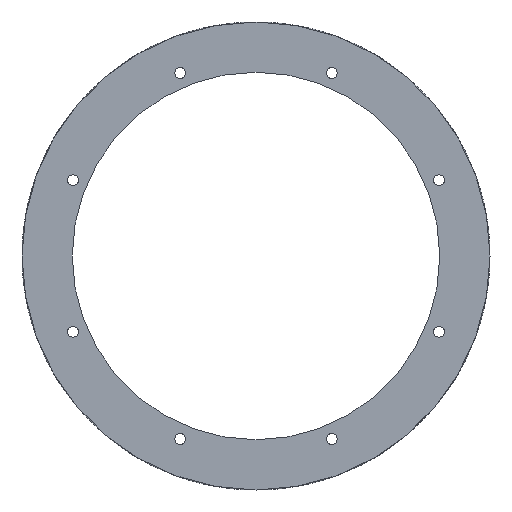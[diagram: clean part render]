
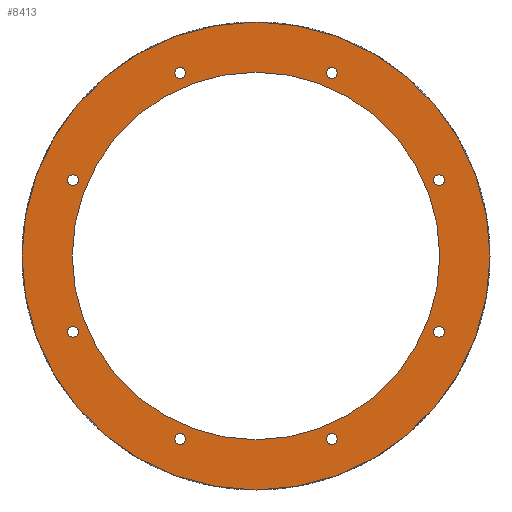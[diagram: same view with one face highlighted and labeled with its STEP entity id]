
A CAD part, front view. The second image highlights one B-rep face of the part: STEP entity #8413.
In plain terms, the highlighted planar face has unit normal (0, -1, 0).
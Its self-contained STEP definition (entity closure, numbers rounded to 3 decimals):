
#15=CARTESIAN_POINT('',(0.,0.,0.));
#16=DIRECTION('',(0.,1.,0.));
#17=DIRECTION('',(1.,0.,0.));
#18=AXIS2_PLACEMENT_3D('',#15,#16,#17);
#24=CARTESIAN_POINT('',(0.,0.,0.));
#25=DIRECTION('',(0.,1.,0.));
#26=DIRECTION('',(-1.,0.,0.));
#27=AXIS2_PLACEMENT_3D('',#24,#25,#26);
#32=CARTESIAN_POINT('',(0.,0.,0.));
#33=DIRECTION('',(0.,-1.,0.));
#34=DIRECTION('',(1.,0.,0.));
#35=AXIS2_PLACEMENT_3D('',#32,#33,#34);
#40=CARTESIAN_POINT('',(0.,0.,0.));
#41=DIRECTION('',(0.,-1.,0.));
#42=DIRECTION('',(-1.,0.,0.));
#43=AXIS2_PLACEMENT_3D('',#40,#41,#42);
#48=CARTESIAN_POINT('',(-44.808,0.,-18.56));
#49=DIRECTION('',(0.,1.,0.));
#50=DIRECTION('',(1.,0.,0.));
#51=AXIS2_PLACEMENT_3D('',#48,#49,#50);
#56=CARTESIAN_POINT('',(-44.808,0.,-18.56));
#57=DIRECTION('',(0.,1.,0.));
#58=DIRECTION('',(-1.,0.,0.));
#59=AXIS2_PLACEMENT_3D('',#56,#57,#58);
#64=CARTESIAN_POINT('',(18.56,0.,-44.808));
#65=DIRECTION('',(0.,1.,0.));
#66=DIRECTION('',(1.,0.,0.));
#67=AXIS2_PLACEMENT_3D('',#64,#65,#66);
#72=CARTESIAN_POINT('',(18.56,0.,-44.808));
#73=DIRECTION('',(0.,1.,0.));
#74=DIRECTION('',(-1.,0.,0.));
#75=AXIS2_PLACEMENT_3D('',#72,#73,#74);
#80=CARTESIAN_POINT('',(44.808,0.,18.56));
#81=DIRECTION('',(0.,1.,0.));
#82=DIRECTION('',(1.,0.,0.));
#83=AXIS2_PLACEMENT_3D('',#80,#81,#82);
#88=CARTESIAN_POINT('',(44.808,0.,18.56));
#89=DIRECTION('',(0.,1.,0.));
#90=DIRECTION('',(-1.,0.,0.));
#91=AXIS2_PLACEMENT_3D('',#88,#89,#90);
#96=CARTESIAN_POINT('',(-18.56,0.,44.808));
#97=DIRECTION('',(0.,1.,0.));
#98=DIRECTION('',(1.,0.,0.));
#99=AXIS2_PLACEMENT_3D('',#96,#97,#98);
#104=CARTESIAN_POINT('',(-18.56,0.,44.808));
#105=DIRECTION('',(0.,1.,0.));
#106=DIRECTION('',(-1.,0.,0.));
#107=AXIS2_PLACEMENT_3D('',#104,#105,#106);
#112=CARTESIAN_POINT('',(-18.56,0.,-44.808));
#113=DIRECTION('',(0.,1.,0.));
#114=DIRECTION('',(1.,0.,0.));
#115=AXIS2_PLACEMENT_3D('',#112,#113,#114);
#120=CARTESIAN_POINT('',(-18.56,0.,-44.808));
#121=DIRECTION('',(0.,1.,0.));
#122=DIRECTION('',(-1.,0.,0.));
#123=AXIS2_PLACEMENT_3D('',#120,#121,#122);
#128=CARTESIAN_POINT('',(44.808,0.,-18.56));
#129=DIRECTION('',(0.,1.,0.));
#130=DIRECTION('',(1.,0.,0.));
#131=AXIS2_PLACEMENT_3D('',#128,#129,#130);
#136=CARTESIAN_POINT('',(44.808,0.,-18.56));
#137=DIRECTION('',(0.,1.,0.));
#138=DIRECTION('',(-1.,0.,0.));
#139=AXIS2_PLACEMENT_3D('',#136,#137,#138);
#144=CARTESIAN_POINT('',(18.56,0.,44.808));
#145=DIRECTION('',(0.,1.,0.));
#146=DIRECTION('',(1.,0.,0.));
#147=AXIS2_PLACEMENT_3D('',#144,#145,#146);
#152=CARTESIAN_POINT('',(18.56,0.,44.808));
#153=DIRECTION('',(0.,1.,0.));
#154=DIRECTION('',(-1.,0.,0.));
#155=AXIS2_PLACEMENT_3D('',#152,#153,#154);
#160=CARTESIAN_POINT('',(-44.808,0.,18.56));
#161=DIRECTION('',(0.,1.,0.));
#162=DIRECTION('',(1.,0.,0.));
#163=AXIS2_PLACEMENT_3D('',#160,#161,#162);
#168=CARTESIAN_POINT('',(-44.808,0.,18.56));
#169=DIRECTION('',(0.,1.,0.));
#170=DIRECTION('',(-1.,0.,0.));
#171=AXIS2_PLACEMENT_3D('',#168,#169,#170);
#7084=CARTESIAN_POINT('',(57.3,0.,0.));
#7085=CARTESIAN_POINT('',(-57.3,0.,0.));
#7086=VERTEX_POINT('',#7084);
#7087=VERTEX_POINT('',#7085);
#7088=CARTESIAN_POINT('',(45.005,0.,0.));
#7089=CARTESIAN_POINT('',(-45.005,0.,0.));
#7090=VERTEX_POINT('',#7088);
#7091=VERTEX_POINT('',#7089);
#7610=CARTESIAN_POINT('',(-43.458,0.,-18.56));
#7611=CARTESIAN_POINT('',(-46.158,0.,-18.56));
#7612=VERTEX_POINT('',#7610);
#7613=VERTEX_POINT('',#7611);
#7614=CARTESIAN_POINT('',(19.91,0.,-44.808));
#7615=CARTESIAN_POINT('',(17.21,0.,-44.808));
#7616=VERTEX_POINT('',#7614);
#7617=VERTEX_POINT('',#7615);
#7618=CARTESIAN_POINT('',(46.158,0.,18.56));
#7619=CARTESIAN_POINT('',(43.458,0.,18.56));
#7620=VERTEX_POINT('',#7618);
#7621=VERTEX_POINT('',#7619);
#7622=CARTESIAN_POINT('',(-17.21,0.,44.808));
#7623=CARTESIAN_POINT('',(-19.91,0.,44.808));
#7624=VERTEX_POINT('',#7622);
#7625=VERTEX_POINT('',#7623);
#8168=CARTESIAN_POINT('',(-17.21,0.,-44.808));
#8169=CARTESIAN_POINT('',(-19.91,0.,-44.808));
#8170=VERTEX_POINT('',#8168);
#8171=VERTEX_POINT('',#8169);
#8172=CARTESIAN_POINT('',(46.158,0.,-18.56));
#8173=CARTESIAN_POINT('',(43.458,0.,-18.56));
#8174=VERTEX_POINT('',#8172);
#8175=VERTEX_POINT('',#8173);
#8176=CARTESIAN_POINT('',(19.91,0.,44.808));
#8177=CARTESIAN_POINT('',(17.21,0.,44.808));
#8178=VERTEX_POINT('',#8176);
#8179=VERTEX_POINT('',#8177);
#8180=CARTESIAN_POINT('',(-43.458,0.,18.56));
#8181=CARTESIAN_POINT('',(-46.158,0.,18.56));
#8182=VERTEX_POINT('',#8180);
#8183=VERTEX_POINT('',#8181);
#8348=CARTESIAN_POINT('',(0.,0.,0.));
#8349=DIRECTION('',(0.,1.,0.));
#8350=DIRECTION('',(1.,0.,0.));
#8351=AXIS2_PLACEMENT_3D('',#8348,#8349,#8350);
#8352=PLANE('',#8351);
#8354=ORIENTED_EDGE('',*,*,#8353,.T.);
#8356=ORIENTED_EDGE('',*,*,#8355,.T.);
#8357=EDGE_LOOP('',(#8354,#8356));
#8358=FACE_OUTER_BOUND('',#8357,.F.);
#8360=ORIENTED_EDGE('',*,*,#8359,.T.);
#8362=ORIENTED_EDGE('',*,*,#8361,.T.);
#8363=EDGE_LOOP('',(#8360,#8362));
#8364=FACE_BOUND('',#8363,.F.);
#8366=ORIENTED_EDGE('',*,*,#8365,.F.);
#8368=ORIENTED_EDGE('',*,*,#8367,.F.);
#8369=EDGE_LOOP('',(#8366,#8368));
#8370=FACE_BOUND('',#8369,.F.);
#8372=ORIENTED_EDGE('',*,*,#8371,.F.);
#8374=ORIENTED_EDGE('',*,*,#8373,.F.);
#8375=EDGE_LOOP('',(#8372,#8374));
#8376=FACE_BOUND('',#8375,.F.);
#8378=ORIENTED_EDGE('',*,*,#8377,.F.);
#8380=ORIENTED_EDGE('',*,*,#8379,.F.);
#8381=EDGE_LOOP('',(#8378,#8380));
#8382=FACE_BOUND('',#8381,.F.);
#8384=ORIENTED_EDGE('',*,*,#8383,.F.);
#8386=ORIENTED_EDGE('',*,*,#8385,.F.);
#8387=EDGE_LOOP('',(#8384,#8386));
#8388=FACE_BOUND('',#8387,.F.);
#8390=ORIENTED_EDGE('',*,*,#8389,.F.);
#8392=ORIENTED_EDGE('',*,*,#8391,.F.);
#8393=EDGE_LOOP('',(#8390,#8392));
#8394=FACE_BOUND('',#8393,.F.);
#8396=ORIENTED_EDGE('',*,*,#8395,.F.);
#8398=ORIENTED_EDGE('',*,*,#8397,.F.);
#8399=EDGE_LOOP('',(#8396,#8398));
#8400=FACE_BOUND('',#8399,.F.);
#8402=ORIENTED_EDGE('',*,*,#8401,.F.);
#8404=ORIENTED_EDGE('',*,*,#8403,.F.);
#8405=EDGE_LOOP('',(#8402,#8404));
#8406=FACE_BOUND('',#8405,.F.);
#8408=ORIENTED_EDGE('',*,*,#8407,.F.);
#8410=ORIENTED_EDGE('',*,*,#8409,.F.);
#8411=EDGE_LOOP('',(#8408,#8410));
#8412=FACE_BOUND('',#8411,.F.);
#8413=ADVANCED_FACE('',(#8358,#8364,#8370,#8376,#8382,#8388,#8394,#8400,#8406,
#8412),#8352,.F.);
#19=CIRCLE('',#18,57.3);
#28=CIRCLE('',#27,57.3);
#36=CIRCLE('',#35,45.005);
#44=CIRCLE('',#43,45.005);
#52=CIRCLE('',#51,1.35);
#60=CIRCLE('',#59,1.35);
#68=CIRCLE('',#67,1.35);
#76=CIRCLE('',#75,1.35);
#84=CIRCLE('',#83,1.35);
#92=CIRCLE('',#91,1.35);
#100=CIRCLE('',#99,1.35);
#108=CIRCLE('',#107,1.35);
#116=CIRCLE('',#115,1.35);
#124=CIRCLE('',#123,1.35);
#132=CIRCLE('',#131,1.35);
#140=CIRCLE('',#139,1.35);
#148=CIRCLE('',#147,1.35);
#156=CIRCLE('',#155,1.35);
#164=CIRCLE('',#163,1.35);
#172=CIRCLE('',#171,1.35);
#8353=EDGE_CURVE('',#7086,#7087,#19,.T.);
#8355=EDGE_CURVE('',#7087,#7086,#28,.T.);
#8359=EDGE_CURVE('',#7090,#7091,#36,.T.);
#8361=EDGE_CURVE('',#7091,#7090,#44,.T.);
#8365=EDGE_CURVE('',#7612,#7613,#52,.T.);
#8367=EDGE_CURVE('',#7613,#7612,#60,.T.);
#8371=EDGE_CURVE('',#7616,#7617,#68,.T.);
#8373=EDGE_CURVE('',#7617,#7616,#76,.T.);
#8377=EDGE_CURVE('',#7620,#7621,#84,.T.);
#8379=EDGE_CURVE('',#7621,#7620,#92,.T.);
#8383=EDGE_CURVE('',#7624,#7625,#100,.T.);
#8385=EDGE_CURVE('',#7625,#7624,#108,.T.);
#8389=EDGE_CURVE('',#8170,#8171,#116,.T.);
#8391=EDGE_CURVE('',#8171,#8170,#124,.T.);
#8395=EDGE_CURVE('',#8174,#8175,#132,.T.);
#8397=EDGE_CURVE('',#8175,#8174,#140,.T.);
#8401=EDGE_CURVE('',#8178,#8179,#148,.T.);
#8403=EDGE_CURVE('',#8179,#8178,#156,.T.);
#8407=EDGE_CURVE('',#8182,#8183,#164,.T.);
#8409=EDGE_CURVE('',#8183,#8182,#172,.T.);
